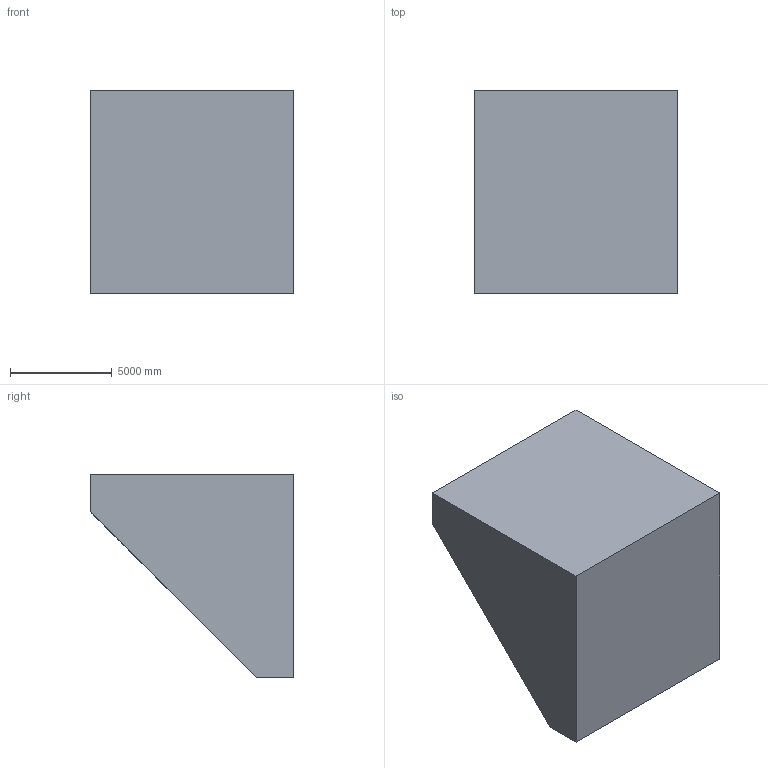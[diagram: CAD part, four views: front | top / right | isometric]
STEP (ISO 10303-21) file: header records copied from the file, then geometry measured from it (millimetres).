
FILE_DESCRIPTION (( 'STEP AP203' ), '1' );
FILE_NAME ('17.STEP', '2022-07-28T13:24:55', ( 'user' ), ( '' ), 'SwSTEP 2.0', 'SolidWorks 2021', '' );
FILE_SCHEMA (( 'CONFIG_CONTROL_DESIGN' ));
Length unit declared in the file: centimetre
Products named in the file (1): 17
Bounding box: 10000 x 10000 x 10000 mm (x, y, z)
Volume: 645408454968.6 mm3; surface area: 547748353.1 mm2
Topology: 1 solids, 1 shells, 13 faces, 33 edges, 22 vertices
Faces by surface type: plane 9, cylinder 4
Entity records: 472 total; most frequent: CARTESIAN_POINT 81, ORIENTED_EDGE 66, DIRECTION 65, EDGE_CURVE 33, AXIS2_PLACEMENT_3D 22, VERTEX_POINT 22, LINE 21, VECTOR 21
